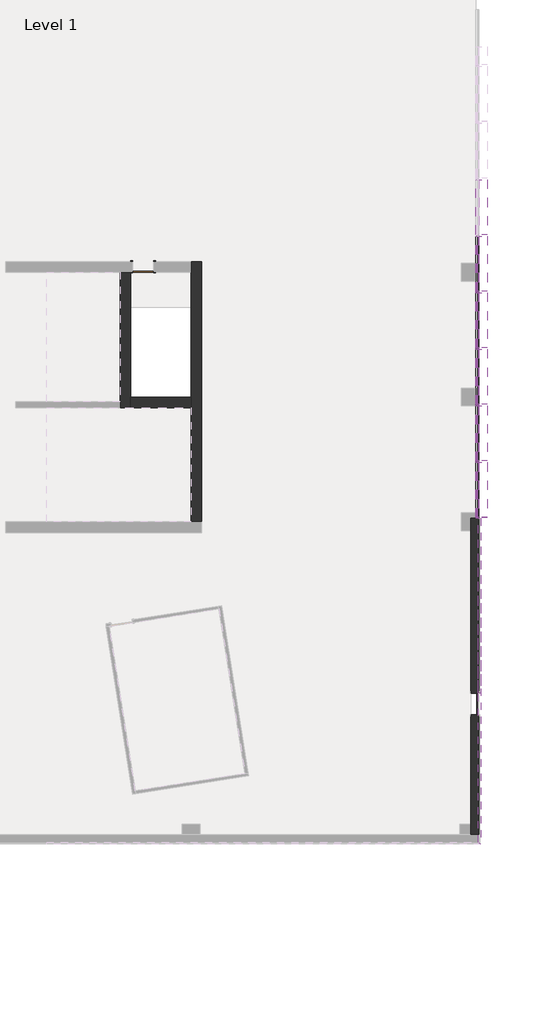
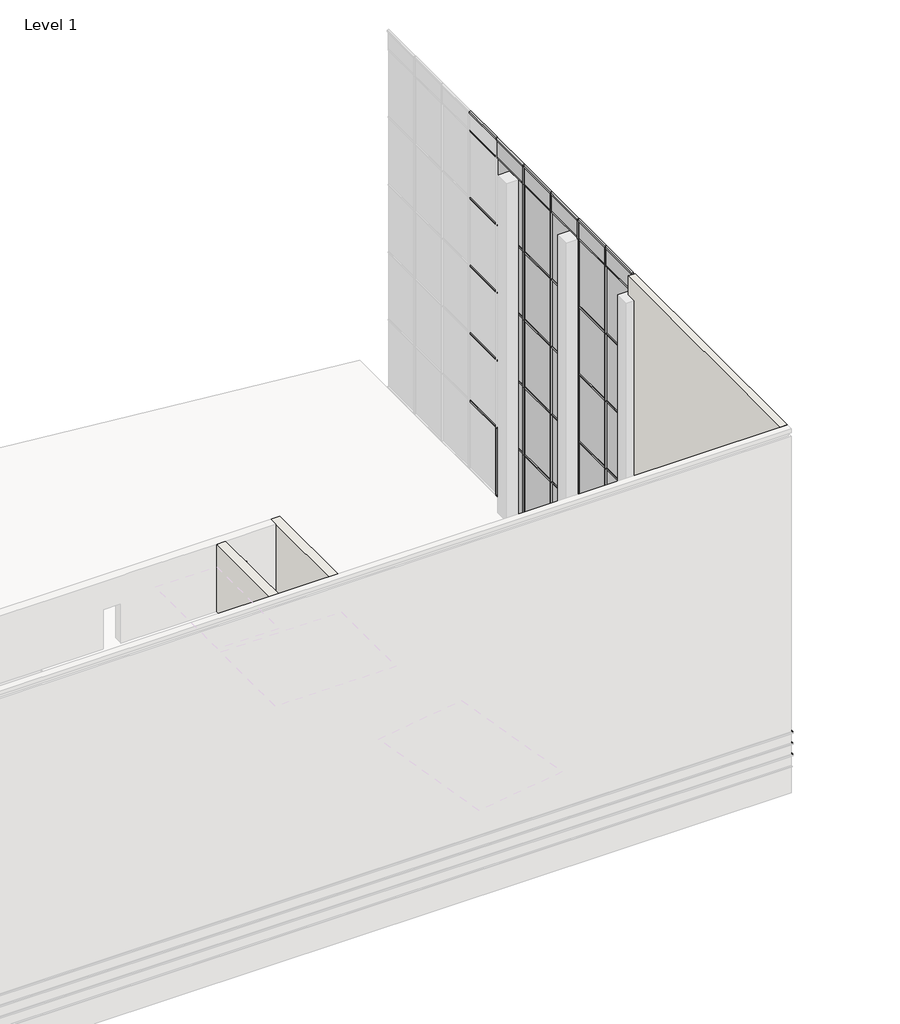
# One storey, part 8 of 23: 72 members, 30 plates, 4 walls, 3 proxies, 1 door.
"""IFC4 building model written with IfcOpenShell, lengths in millimetres."""

from ifc_helpers import new_model, si_unit, frame, origin, origin_with_axes, place, context, project, spatial, polyline, outline, extrude, faceted_brep, transform, mapped, element, save
from components import door_3c99239a, member_148ee976, member_8dc9af40, member_0491a5d0, member_26e31a6d, member_07e69ef0, member_810865a4, member_90793d7c, member_64b167af, system_panel_glazed_b79bd3cf, system_panel_solid_52d708f1

model = new_model("IFC4")

# Units and contexts
model_context = context("Model", 3, world=origin())
ifc_project = project(units=[si_unit("LENGTHUNIT", "METRE", prefix="MILLI")], contexts=[model_context])

# Site, building, storey
site = spatial("IfcSite", under=ifc_project)
building = spatial("IfcBuilding", under=site)
storey = spatial("IfcBuildingStorey", under=building, Name="Level 1", Elevation=0.0)

# Proxies
placement = place(None, origin())
element("IfcBuildingElementProxy", 1, Name="Reveals", at=placement, inside=storey, context=model_context, shape_type="SweptSolid", body=[
    extrude(outline(polyline([(15157.6054088, -14218.5728492), (15249.6804088, -14218.5728492), (15249.6804088, -21686.0488327), (15157.6054088, -21686.0488327), (15157.6054088, -14218.5728492)])), frame((0.0, 0.0, 1625.6), z_axis=(0.0, 0.0, 1.0), x_axis=(1.0, 0.0, 0.0)), (0.0, 0.0, 1.0), 67.7333333),
    extrude(outline(polyline([(15157.6054088, -22600.4488327), (15249.6804088, -22600.4488327), (15249.6804088, -28148.8853492), (15157.6054088, -28056.8103492), (15157.6054088, -22600.4488327)])), frame((0.0, 0.0, 1625.6), z_axis=(0.0, 0.0, 1.0), x_axis=(1.0, 0.0, 0.0)), (0.0, 0.0, 1.0), 67.7333333),
])
element("IfcBuildingElementProxy", 2, Name="Reveals", at=placement, inside=storey, context=model_context, shape_type="SweptSolid", body=[
    extrude(outline(polyline([(15157.6054088, -14218.5728492), (15249.6804088, -14218.5728492), (15249.6804088, -28148.8853492), (15157.6054088, -28056.8103492), (15157.6054088, -14218.5728492)])), frame((0.0, 0.0, 2235.2), z_axis=(0.0, 0.0, 1.0), x_axis=(1.0, 0.0, 0.0)), (0.0, 0.0, 1.0), 67.7333333),
])
element("IfcBuildingElementProxy", 3, Name="Reveals", at=placement, inside=storey, context=model_context, shape_type="SweptSolid", body=[
    extrude(outline(polyline([(15157.6054088, -14218.5728492), (15249.6804088, -14218.5728492), (15249.6804088, -28148.8853492), (15157.6054088, -28056.8103492), (15157.6054088, -14218.5728492)])), frame((0.0, 0.0, 2844.8), z_axis=(0.0, 0.0, 1.0), x_axis=(1.0, 0.0, 0.0)), (0.0, 0.0, 1.0), 67.7333333),
])

# Door
door_shape = door_3c99239a(model_context)
element("IfcDoor", 4, ObjectType="Single-Flush : 36\" x 84\"", at=placement, inside=storey, context=model_context, shape_type="MappedRepresentation", body=[
    mapped(door_shape, transform((817.7000645, -3469.6103492, 0.0), x_axis=(-1.0, 0.0, 0.0), y_axis=(0.0, -1.0, 0.0), z_axis=(0.0, 0.0, 1.0))),
])

# Members
member_shape = member_148ee976(model_context)
element("IfcMember", 5, ObjectType="Quad Corner Mullion : 5\" x 5\" Quad Corner", at=placement, inside=storey, context=model_context, shape_type="MappedRepresentation", body=[
    mapped(member_shape, transform((15106.8054088, -14180.4728492, 19304.0), x_axis=(0.0, 0.0, 1.0), y_axis=(-1.0, 0.0, 0.0), z_axis=(0.0, -1.0, 0.0))),
])
element("IfcMember", 6, ObjectType="Quad Corner Mullion : 5\" x 5\" Quad Corner", at=placement, inside=storey, context=model_context, shape_type="MappedRepresentation", body=[
    mapped(member_shape, transform((15106.8054088, -2094.2120978, 19304.0), x_axis=(0.0, 0.0, 1.0), y_axis=(-1.0, 0.0, 0.0), z_axis=(0.0, -1.0, 0.0))),
])
element("IfcMember", 7, ObjectType="Quad Corner Mullion : 5\" x 5\" Quad Corner", at=placement, inside=storey, context=model_context, shape_type="MappedRepresentation", body=[
    mapped(member_shape, transform((15106.8054088, -4511.4642481, 19304.0), x_axis=(0.0, 0.0, 1.0), y_axis=(-1.0, 0.0, 0.0), z_axis=(0.0, -1.0, 0.0))),
])
element("IfcMember", 8, ObjectType="Quad Corner Mullion : 5\" x 5\" Quad Corner", at=placement, inside=storey, context=model_context, shape_type="MappedRepresentation", body=[
    mapped(member_shape, transform((15106.8054088, -6928.7163984, 19304.0), x_axis=(0.0, 0.0, 1.0), y_axis=(-1.0, 0.0, 0.0), z_axis=(0.0, -1.0, 0.0))),
])
element("IfcMember", 9, ObjectType="Quad Corner Mullion : 5\" x 5\" Quad Corner", at=placement, inside=storey, context=model_context, shape_type="MappedRepresentation", body=[
    mapped(member_shape, transform((15106.8054088, -9345.9685486, 19304.0), x_axis=(0.0, 0.0, 1.0), y_axis=(-1.0, 0.0, 0.0), z_axis=(0.0, -1.0, 0.0))),
])
element("IfcMember", 10, ObjectType="Quad Corner Mullion : 5\" x 5\" Quad Corner", at=placement, inside=storey, context=model_context, shape_type="MappedRepresentation", body=[
    mapped(member_shape, transform((15106.8054088, -11763.2206989, 19304.0), x_axis=(0.0, 0.0, 1.0), y_axis=(-1.0, 0.0, 0.0), z_axis=(0.0, -1.0, 0.0))),
])
element("IfcMember", 11, ObjectType="Quad Corner Mullion : 5\" x 5\" Quad Corner", at=placement, inside=storey, context=model_context, shape_type="MappedRepresentation", body=[
    mapped(member_shape, transform((15106.8054088, -2157.7120978, 0.0), x_axis=(0.0, 0.0, -1.0), y_axis=(-1.0, 0.0, 0.0), z_axis=(0.0, 1.0, 0.0))),
])
element("IfcMember", 12, ObjectType="Quad Corner Mullion : 5\" x 5\" Quad Corner", at=placement, inside=storey, context=model_context, shape_type="MappedRepresentation", body=[
    mapped(member_shape, transform((15106.8054088, -4574.9642481, 0.0), x_axis=(0.0, 0.0, -1.0), y_axis=(-1.0, 0.0, 0.0), z_axis=(0.0, 1.0, 0.0))),
])
element("IfcMember", 13, ObjectType="Quad Corner Mullion : 5\" x 5\" Quad Corner", at=placement, inside=storey, context=model_context, shape_type="MappedRepresentation", body=[
    mapped(member_shape, transform((15106.8054088, -6992.2163984, 0.0), x_axis=(0.0, 0.0, -1.0), y_axis=(-1.0, 0.0, 0.0), z_axis=(0.0, 1.0, 0.0))),
])
element("IfcMember", 14, ObjectType="Quad Corner Mullion : 5\" x 5\" Quad Corner", at=placement, inside=storey, context=model_context, shape_type="MappedRepresentation", body=[
    mapped(member_shape, transform((15106.8054088, -9409.4685486, 0.0), x_axis=(0.0, 0.0, -1.0), y_axis=(-1.0, 0.0, 0.0), z_axis=(0.0, 1.0, 0.0))),
])
element("IfcMember", 15, ObjectType="Quad Corner Mullion : 5\" x 5\" Quad Corner", at=placement, inside=storey, context=model_context, shape_type="MappedRepresentation", body=[
    mapped(member_shape, transform((15106.8054088, -11826.7206989, 0.0), x_axis=(0.0, 0.0, -1.0), y_axis=(-1.0, 0.0, 0.0), z_axis=(0.0, 1.0, 0.0))),
])
member_2_shape = member_8dc9af40(model_context)
element("IfcMember", 16, ObjectType="Rectangular Mullion : 1.5\" x 2.5\" rectangular", at=placement, inside=storey, context=model_context, shape_type="MappedRepresentation", body=[
    mapped(member_2_shape, transform((15106.8054088, -14218.5728492, 3666.6228811), x_axis=(0.0, -1.0, 0.0), y_axis=(-1.0, 0.0, 0.0), z_axis=(0.0, 0.0, -1.0))),
])
element("IfcMember", 17, ObjectType="Rectangular Mullion : 1.5\" x 2.5\" rectangular", at=placement, inside=storey, context=model_context, shape_type="MappedRepresentation", body=[
    mapped(member_2_shape, transform((15106.8054088, -14218.5728492, 7324.2228811), x_axis=(0.0, -1.0, 0.0), y_axis=(-1.0, 0.0, 0.0), z_axis=(0.0, 0.0, -1.0))),
])
element("IfcMember", 18, ObjectType="Rectangular Mullion : 1.5\" x 2.5\" rectangular", at=placement, inside=storey, context=model_context, shape_type="MappedRepresentation", body=[
    mapped(member_2_shape, transform((15106.8054088, -14218.5728492, 10981.8228811), x_axis=(0.0, -1.0, 0.0), y_axis=(-1.0, 0.0, 0.0), z_axis=(0.0, 0.0, -1.0))),
])
element("IfcMember", 19, ObjectType="Rectangular Mullion : 1.5\" x 2.5\" rectangular", at=placement, inside=storey, context=model_context, shape_type="MappedRepresentation", body=[
    mapped(member_2_shape, transform((15106.8054088, -14218.5728492, 14639.4228811), x_axis=(0.0, -1.0, 0.0), y_axis=(-1.0, 0.0, 0.0), z_axis=(0.0, 0.0, -1.0))),
])
member_3_shape = member_0491a5d0(model_context)
element("IfcMember", 20, ObjectType="Rectangular Mullion : 1.5\" x 2.5\" rectangular", at=placement, inside=storey, context=model_context, shape_type="MappedRepresentation", body=[
    mapped(member_3_shape, transform((15106.8054088, -14218.5728492, 0.0), x_axis=(0.0, -1.0, 0.0), y_axis=(-1.0, 0.0, 0.0), z_axis=(0.0, 0.0, -1.0))),
])
member_4_shape = member_26e31a6d(model_context)
element("IfcMember", 21, ObjectType="Rectangular Mullion : 1.5\" x 2.5\" rectangular", at=placement, inside=storey, context=model_context, shape_type="MappedRepresentation", body=[
    mapped(member_4_shape, transform((15106.8054088, -14218.5728492, 18297.0228811), x_axis=(0.0, -1.0, 0.0), y_axis=(-1.0, 0.0, 0.0), z_axis=(0.0, 0.0, -1.0))),
])
member_5_shape = member_07e69ef0(model_context)
element("IfcMember", 22, ObjectType="Rectangular Mullion : 2.5\" x 18\" rectangular", at=placement, inside=storey, context=model_context, shape_type="MappedRepresentation", body=[
    mapped(member_5_shape, transform((15106.8054088, -4511.4642481, 3666.6228811), x_axis=(0.0, 0.0, 1.0), y_axis=(-1.0, 0.0, 0.0), z_axis=(0.0, -1.0, 0.0))),
])
element("IfcMember", 23, ObjectType="Rectangular Mullion : 2.5\" x 18\" rectangular", at=placement, inside=storey, context=model_context, shape_type="MappedRepresentation", body=[
    mapped(member_5_shape, transform((15106.8054088, -2094.2120978, 3666.6228811), x_axis=(0.0, 0.0, 1.0), y_axis=(-1.0, 0.0, 0.0), z_axis=(0.0, -1.0, 0.0))),
])
element("IfcMember", 24, ObjectType="Rectangular Mullion : 2.5\" x 18\" rectangular", at=placement, inside=storey, context=model_context, shape_type="MappedRepresentation", body=[
    mapped(member_5_shape, transform((15106.8054088, -6928.7163984, 3666.6228811), x_axis=(0.0, 0.0, 1.0), y_axis=(-1.0, 0.0, 0.0), z_axis=(0.0, -1.0, 0.0))),
])
element("IfcMember", 25, ObjectType="Rectangular Mullion : 2.5\" x 18\" rectangular", at=placement, inside=storey, context=model_context, shape_type="MappedRepresentation", body=[
    mapped(member_5_shape, transform((15106.8054088, -9345.9685486, 3666.6228811), x_axis=(0.0, 0.0, 1.0), y_axis=(-1.0, 0.0, 0.0), z_axis=(0.0, -1.0, 0.0))),
])
element("IfcMember", 26, ObjectType="Rectangular Mullion : 2.5\" x 18\" rectangular", at=placement, inside=storey, context=model_context, shape_type="MappedRepresentation", body=[
    mapped(member_5_shape, transform((15106.8054088, -11763.2206989, 3666.6228811), x_axis=(0.0, 0.0, 1.0), y_axis=(-1.0, 0.0, 0.0), z_axis=(0.0, -1.0, 0.0))),
])
element("IfcMember", 27, ObjectType="Rectangular Mullion : 2.5\" x 18\" rectangular", at=placement, inside=storey, context=model_context, shape_type="MappedRepresentation", body=[
    mapped(member_5_shape, transform((15106.8054088, -14180.4728492, 3666.6228811), x_axis=(0.0, 0.0, 1.0), y_axis=(-1.0, 0.0, 0.0), z_axis=(0.0, -1.0, 0.0))),
])
element("IfcMember", 28, ObjectType="Rectangular Mullion : 2.5\" x 18\" rectangular", at=placement, inside=storey, context=model_context, shape_type="MappedRepresentation", body=[
    mapped(member_5_shape, transform((15106.8054088, -4511.4642481, 7324.2228811), x_axis=(0.0, 0.0, 1.0), y_axis=(-1.0, 0.0, 0.0), z_axis=(0.0, -1.0, 0.0))),
])
element("IfcMember", 29, ObjectType="Rectangular Mullion : 2.5\" x 18\" rectangular", at=placement, inside=storey, context=model_context, shape_type="MappedRepresentation", body=[
    mapped(member_5_shape, transform((15106.8054088, -2094.2120978, 7324.2228811), x_axis=(0.0, 0.0, 1.0), y_axis=(-1.0, 0.0, 0.0), z_axis=(0.0, -1.0, 0.0))),
])
element("IfcMember", 30, ObjectType="Rectangular Mullion : 2.5\" x 18\" rectangular", at=placement, inside=storey, context=model_context, shape_type="MappedRepresentation", body=[
    mapped(member_5_shape, transform((15106.8054088, -6928.7163984, 7324.2228811), x_axis=(0.0, 0.0, 1.0), y_axis=(-1.0, 0.0, 0.0), z_axis=(0.0, -1.0, 0.0))),
])
element("IfcMember", 31, ObjectType="Rectangular Mullion : 2.5\" x 18\" rectangular", at=placement, inside=storey, context=model_context, shape_type="MappedRepresentation", body=[
    mapped(member_5_shape, transform((15106.8054088, -9345.9685486, 7324.2228811), x_axis=(0.0, 0.0, 1.0), y_axis=(-1.0, 0.0, 0.0), z_axis=(0.0, -1.0, 0.0))),
])
element("IfcMember", 32, ObjectType="Rectangular Mullion : 2.5\" x 18\" rectangular", at=placement, inside=storey, context=model_context, shape_type="MappedRepresentation", body=[
    mapped(member_5_shape, transform((15106.8054088, -11763.2206989, 7324.2228811), x_axis=(0.0, 0.0, 1.0), y_axis=(-1.0, 0.0, 0.0), z_axis=(0.0, -1.0, 0.0))),
])
element("IfcMember", 33, ObjectType="Rectangular Mullion : 2.5\" x 18\" rectangular", at=placement, inside=storey, context=model_context, shape_type="MappedRepresentation", body=[
    mapped(member_5_shape, transform((15106.8054088, -14180.4728492, 7324.2228811), x_axis=(0.0, 0.0, 1.0), y_axis=(-1.0, 0.0, 0.0), z_axis=(0.0, -1.0, 0.0))),
])
element("IfcMember", 34, ObjectType="Rectangular Mullion : 2.5\" x 18\" rectangular", at=placement, inside=storey, context=model_context, shape_type="MappedRepresentation", body=[
    mapped(member_5_shape, transform((15106.8054088, -4511.4642481, 10981.8228811), x_axis=(0.0, 0.0, 1.0), y_axis=(-1.0, 0.0, 0.0), z_axis=(0.0, -1.0, 0.0))),
])
element("IfcMember", 35, ObjectType="Rectangular Mullion : 2.5\" x 18\" rectangular", at=placement, inside=storey, context=model_context, shape_type="MappedRepresentation", body=[
    mapped(member_5_shape, transform((15106.8054088, -2094.2120978, 10981.8228811), x_axis=(0.0, 0.0, 1.0), y_axis=(-1.0, 0.0, 0.0), z_axis=(0.0, -1.0, 0.0))),
])
element("IfcMember", 36, ObjectType="Rectangular Mullion : 2.5\" x 18\" rectangular", at=placement, inside=storey, context=model_context, shape_type="MappedRepresentation", body=[
    mapped(member_5_shape, transform((15106.8054088, -6928.7163984, 10981.8228811), x_axis=(0.0, 0.0, 1.0), y_axis=(-1.0, 0.0, 0.0), z_axis=(0.0, -1.0, 0.0))),
])
element("IfcMember", 37, ObjectType="Rectangular Mullion : 2.5\" x 18\" rectangular", at=placement, inside=storey, context=model_context, shape_type="MappedRepresentation", body=[
    mapped(member_5_shape, transform((15106.8054088, -9345.9685486, 10981.8228811), x_axis=(0.0, 0.0, 1.0), y_axis=(-1.0, 0.0, 0.0), z_axis=(0.0, -1.0, 0.0))),
])
element("IfcMember", 38, ObjectType="Rectangular Mullion : 2.5\" x 18\" rectangular", at=placement, inside=storey, context=model_context, shape_type="MappedRepresentation", body=[
    mapped(member_5_shape, transform((15106.8054088, -11763.2206989, 10981.8228811), x_axis=(0.0, 0.0, 1.0), y_axis=(-1.0, 0.0, 0.0), z_axis=(0.0, -1.0, 0.0))),
])
element("IfcMember", 39, ObjectType="Rectangular Mullion : 2.5\" x 18\" rectangular", at=placement, inside=storey, context=model_context, shape_type="MappedRepresentation", body=[
    mapped(member_5_shape, transform((15106.8054088, -14180.4728492, 10981.8228811), x_axis=(0.0, 0.0, 1.0), y_axis=(-1.0, 0.0, 0.0), z_axis=(0.0, -1.0, 0.0))),
])
element("IfcMember", 40, ObjectType="Rectangular Mullion : 2.5\" x 18\" rectangular", at=placement, inside=storey, context=model_context, shape_type="MappedRepresentation", body=[
    mapped(member_5_shape, transform((15106.8054088, -4511.4642481, 14639.4228811), x_axis=(0.0, 0.0, 1.0), y_axis=(-1.0, 0.0, 0.0), z_axis=(0.0, -1.0, 0.0))),
])
element("IfcMember", 41, ObjectType="Rectangular Mullion : 2.5\" x 18\" rectangular", at=placement, inside=storey, context=model_context, shape_type="MappedRepresentation", body=[
    mapped(member_5_shape, transform((15106.8054088, -2094.2120978, 14639.4228811), x_axis=(0.0, 0.0, 1.0), y_axis=(-1.0, 0.0, 0.0), z_axis=(0.0, -1.0, 0.0))),
])
element("IfcMember", 42, ObjectType="Rectangular Mullion : 2.5\" x 18\" rectangular", at=placement, inside=storey, context=model_context, shape_type="MappedRepresentation", body=[
    mapped(member_5_shape, transform((15106.8054088, -6928.7163984, 14639.4228811), x_axis=(0.0, 0.0, 1.0), y_axis=(-1.0, 0.0, 0.0), z_axis=(0.0, -1.0, 0.0))),
])
element("IfcMember", 43, ObjectType="Rectangular Mullion : 2.5\" x 18\" rectangular", at=placement, inside=storey, context=model_context, shape_type="MappedRepresentation", body=[
    mapped(member_5_shape, transform((15106.8054088, -9345.9685486, 14639.4228811), x_axis=(0.0, 0.0, 1.0), y_axis=(-1.0, 0.0, 0.0), z_axis=(0.0, -1.0, 0.0))),
])
element("IfcMember", 44, ObjectType="Rectangular Mullion : 2.5\" x 18\" rectangular", at=placement, inside=storey, context=model_context, shape_type="MappedRepresentation", body=[
    mapped(member_5_shape, transform((15106.8054088, -11763.2206989, 14639.4228811), x_axis=(0.0, 0.0, 1.0), y_axis=(-1.0, 0.0, 0.0), z_axis=(0.0, -1.0, 0.0))),
])
element("IfcMember", 45, ObjectType="Rectangular Mullion : 2.5\" x 18\" rectangular", at=placement, inside=storey, context=model_context, shape_type="MappedRepresentation", body=[
    mapped(member_5_shape, transform((15106.8054088, -14180.4728492, 14639.4228811), x_axis=(0.0, 0.0, 1.0), y_axis=(-1.0, 0.0, 0.0), z_axis=(0.0, -1.0, 0.0))),
])
element("IfcMember", 46, ObjectType="Rectangular Mullion : 2.5\" x 18\" rectangular", at=placement, inside=storey, context=model_context, shape_type="MappedRepresentation", body=[
    mapped(member_5_shape, transform((15106.8054088, -4511.4642481, 18297.0228811), x_axis=(0.0, 0.0, 1.0), y_axis=(-1.0, 0.0, 0.0), z_axis=(0.0, -1.0, 0.0))),
])
element("IfcMember", 47, ObjectType="Rectangular Mullion : 2.5\" x 18\" rectangular", at=placement, inside=storey, context=model_context, shape_type="MappedRepresentation", body=[
    mapped(member_5_shape, transform((15106.8054088, -2094.2120978, 18297.0228811), x_axis=(0.0, 0.0, 1.0), y_axis=(-1.0, 0.0, 0.0), z_axis=(0.0, -1.0, 0.0))),
])
element("IfcMember", 48, ObjectType="Rectangular Mullion : 2.5\" x 18\" rectangular", at=placement, inside=storey, context=model_context, shape_type="MappedRepresentation", body=[
    mapped(member_5_shape, transform((15106.8054088, -6928.7163984, 18297.0228811), x_axis=(0.0, 0.0, 1.0), y_axis=(-1.0, 0.0, 0.0), z_axis=(0.0, -1.0, 0.0))),
])
element("IfcMember", 49, ObjectType="Rectangular Mullion : 2.5\" x 18\" rectangular", at=placement, inside=storey, context=model_context, shape_type="MappedRepresentation", body=[
    mapped(member_5_shape, transform((15106.8054088, -9345.9685486, 18297.0228811), x_axis=(0.0, 0.0, 1.0), y_axis=(-1.0, 0.0, 0.0), z_axis=(0.0, -1.0, 0.0))),
])
element("IfcMember", 50, ObjectType="Rectangular Mullion : 2.5\" x 18\" rectangular", at=placement, inside=storey, context=model_context, shape_type="MappedRepresentation", body=[
    mapped(member_5_shape, transform((15106.8054088, -11763.2206989, 18297.0228811), x_axis=(0.0, 0.0, 1.0), y_axis=(-1.0, 0.0, 0.0), z_axis=(0.0, -1.0, 0.0))),
])
element("IfcMember", 51, ObjectType="Rectangular Mullion : 2.5\" x 18\" rectangular", at=placement, inside=storey, context=model_context, shape_type="MappedRepresentation", body=[
    mapped(member_5_shape, transform((15106.8054088, -14180.4728492, 18297.0228811), x_axis=(0.0, 0.0, 1.0), y_axis=(-1.0, 0.0, 0.0), z_axis=(0.0, -1.0, 0.0))),
])
member_6_shape = member_810865a4(model_context)
element("IfcMember", 52, ObjectType="Rectangular Mullion : 2.5\" x 5\" rectangular", at=placement, inside=storey, context=model_context, shape_type="MappedRepresentation", body=[
    mapped(member_6_shape, transform((15106.8054088, -9377.7185486, 3666.6228811), x_axis=(0.0, -1.0, 0.0), y_axis=(-1.0, 0.0, 0.0), z_axis=(0.0, 0.0, -1.0))),
])
element("IfcMember", 53, ObjectType="Rectangular Mullion : 2.5\" x 5\" rectangular", at=placement, inside=storey, context=model_context, shape_type="MappedRepresentation", body=[
    mapped(member_6_shape, transform((15106.8054088, -4543.2142481, 3666.6228811), x_axis=(0.0, -1.0, 0.0), y_axis=(-1.0, 0.0, 0.0), z_axis=(0.0, 0.0, -1.0))),
])
element("IfcMember", 54, ObjectType="Rectangular Mullion : 2.5\" x 5\" rectangular", at=placement, inside=storey, context=model_context, shape_type="MappedRepresentation", body=[
    mapped(member_6_shape, transform((15106.8054088, -6960.4663984, 3666.6228811), x_axis=(0.0, -1.0, 0.0), y_axis=(-1.0, 0.0, 0.0), z_axis=(0.0, 0.0, -1.0))),
])
element("IfcMember", 55, ObjectType="Rectangular Mullion : 2.5\" x 5\" rectangular", at=placement, inside=storey, context=model_context, shape_type="MappedRepresentation", body=[
    mapped(member_6_shape, transform((15106.8054088, -11794.9706989, 3666.6228811), x_axis=(0.0, -1.0, 0.0), y_axis=(-1.0, 0.0, 0.0), z_axis=(0.0, 0.0, -1.0))),
])
element("IfcMember", 56, ObjectType="Rectangular Mullion : 2.5\" x 5\" rectangular", at=placement, inside=storey, context=model_context, shape_type="MappedRepresentation", body=[
    mapped(member_6_shape, transform((15106.8054088, -9377.7185486, 7324.2228811), x_axis=(0.0, -1.0, 0.0), y_axis=(-1.0, 0.0, 0.0), z_axis=(0.0, 0.0, -1.0))),
])
element("IfcMember", 57, ObjectType="Rectangular Mullion : 2.5\" x 5\" rectangular", at=placement, inside=storey, context=model_context, shape_type="MappedRepresentation", body=[
    mapped(member_6_shape, transform((15106.8054088, -4543.2142481, 7324.2228811), x_axis=(0.0, -1.0, 0.0), y_axis=(-1.0, 0.0, 0.0), z_axis=(0.0, 0.0, -1.0))),
])
element("IfcMember", 58, ObjectType="Rectangular Mullion : 2.5\" x 5\" rectangular", at=placement, inside=storey, context=model_context, shape_type="MappedRepresentation", body=[
    mapped(member_6_shape, transform((15106.8054088, -6960.4663984, 7324.2228811), x_axis=(0.0, -1.0, 0.0), y_axis=(-1.0, 0.0, 0.0), z_axis=(0.0, 0.0, -1.0))),
])
element("IfcMember", 59, ObjectType="Rectangular Mullion : 2.5\" x 5\" rectangular", at=placement, inside=storey, context=model_context, shape_type="MappedRepresentation", body=[
    mapped(member_6_shape, transform((15106.8054088, -11794.9706989, 7324.2228811), x_axis=(0.0, -1.0, 0.0), y_axis=(-1.0, 0.0, 0.0), z_axis=(0.0, 0.0, -1.0))),
])
element("IfcMember", 60, ObjectType="Rectangular Mullion : 2.5\" x 5\" rectangular", at=placement, inside=storey, context=model_context, shape_type="MappedRepresentation", body=[
    mapped(member_6_shape, transform((15106.8054088, -9377.7185486, 10981.8228811), x_axis=(0.0, -1.0, 0.0), y_axis=(-1.0, 0.0, 0.0), z_axis=(0.0, 0.0, -1.0))),
])
element("IfcMember", 61, ObjectType="Rectangular Mullion : 2.5\" x 5\" rectangular", at=placement, inside=storey, context=model_context, shape_type="MappedRepresentation", body=[
    mapped(member_6_shape, transform((15106.8054088, -4543.2142481, 10981.8228811), x_axis=(0.0, -1.0, 0.0), y_axis=(-1.0, 0.0, 0.0), z_axis=(0.0, 0.0, -1.0))),
])
element("IfcMember", 62, ObjectType="Rectangular Mullion : 2.5\" x 5\" rectangular", at=placement, inside=storey, context=model_context, shape_type="MappedRepresentation", body=[
    mapped(member_6_shape, transform((15106.8054088, -6960.4663984, 10981.8228811), x_axis=(0.0, -1.0, 0.0), y_axis=(-1.0, 0.0, 0.0), z_axis=(0.0, 0.0, -1.0))),
])
element("IfcMember", 63, ObjectType="Rectangular Mullion : 2.5\" x 5\" rectangular", at=placement, inside=storey, context=model_context, shape_type="MappedRepresentation", body=[
    mapped(member_6_shape, transform((15106.8054088, -11794.9706989, 10981.8228811), x_axis=(0.0, -1.0, 0.0), y_axis=(-1.0, 0.0, 0.0), z_axis=(0.0, 0.0, -1.0))),
])
element("IfcMember", 64, ObjectType="Rectangular Mullion : 2.5\" x 5\" rectangular", at=placement, inside=storey, context=model_context, shape_type="MappedRepresentation", body=[
    mapped(member_6_shape, transform((15106.8054088, -9377.7185486, 14639.4228811), x_axis=(0.0, -1.0, 0.0), y_axis=(-1.0, 0.0, 0.0), z_axis=(0.0, 0.0, -1.0))),
])
element("IfcMember", 65, ObjectType="Rectangular Mullion : 2.5\" x 5\" rectangular", at=placement, inside=storey, context=model_context, shape_type="MappedRepresentation", body=[
    mapped(member_6_shape, transform((15106.8054088, -4543.2142481, 14639.4228811), x_axis=(0.0, -1.0, 0.0), y_axis=(-1.0, 0.0, 0.0), z_axis=(0.0, 0.0, -1.0))),
])
element("IfcMember", 66, ObjectType="Rectangular Mullion : 2.5\" x 5\" rectangular", at=placement, inside=storey, context=model_context, shape_type="MappedRepresentation", body=[
    mapped(member_6_shape, transform((15106.8054088, -6960.4663984, 14639.4228811), x_axis=(0.0, -1.0, 0.0), y_axis=(-1.0, 0.0, 0.0), z_axis=(0.0, 0.0, -1.0))),
])
element("IfcMember", 67, ObjectType="Rectangular Mullion : 2.5\" x 5\" rectangular", at=placement, inside=storey, context=model_context, shape_type="MappedRepresentation", body=[
    mapped(member_6_shape, transform((15106.8054088, -11794.9706989, 14639.4228811), x_axis=(0.0, -1.0, 0.0), y_axis=(-1.0, 0.0, 0.0), z_axis=(0.0, 0.0, -1.0))),
])
member_7_shape = member_90793d7c(model_context)
element("IfcMember", 68, ObjectType="Rectangular Mullion : 2.5\" x 5\" rectangular", at=placement, inside=storey, context=model_context, shape_type="MappedRepresentation", body=[
    mapped(member_7_shape, transform((15106.8054088, -9377.7185486, 0.0), x_axis=(0.0, -1.0, 0.0), y_axis=(-1.0, 0.0, 0.0), z_axis=(0.0, 0.0, -1.0))),
])
element("IfcMember", 69, ObjectType="Rectangular Mullion : 2.5\" x 5\" rectangular", at=placement, inside=storey, context=model_context, shape_type="MappedRepresentation", body=[
    mapped(member_7_shape, transform((15106.8054088, -4543.2142481, 0.0), x_axis=(0.0, -1.0, 0.0), y_axis=(-1.0, 0.0, 0.0), z_axis=(0.0, 0.0, -1.0))),
])
element("IfcMember", 70, ObjectType="Rectangular Mullion : 2.5\" x 5\" rectangular", at=placement, inside=storey, context=model_context, shape_type="MappedRepresentation", body=[
    mapped(member_7_shape, transform((15106.8054088, -2125.9620978, 0.0), x_axis=(0.0, -1.0, 0.0), y_axis=(-1.0, 0.0, 0.0), z_axis=(0.0, 0.0, -1.0))),
])
element("IfcMember", 71, ObjectType="Rectangular Mullion : 2.5\" x 5\" rectangular", at=placement, inside=storey, context=model_context, shape_type="MappedRepresentation", body=[
    mapped(member_7_shape, transform((15106.8054088, -6960.4663984, 0.0), x_axis=(0.0, -1.0, 0.0), y_axis=(-1.0, 0.0, 0.0), z_axis=(0.0, 0.0, -1.0))),
])
element("IfcMember", 72, ObjectType="Rectangular Mullion : 2.5\" x 5\" rectangular", at=placement, inside=storey, context=model_context, shape_type="MappedRepresentation", body=[
    mapped(member_7_shape, transform((15106.8054088, -11794.9706989, 0.0), x_axis=(0.0, -1.0, 0.0), y_axis=(-1.0, 0.0, 0.0), z_axis=(0.0, 0.0, -1.0))),
])
member_8_shape = member_64b167af(model_context)
element("IfcMember", 73, ObjectType="Rectangular Mullion : 2.5\" x 5\" rectangular", at=placement, inside=storey, context=model_context, shape_type="MappedRepresentation", body=[
    mapped(member_8_shape, transform((15106.8054088, -9377.7185486, 18297.0228811), x_axis=(0.0, -1.0, 0.0), y_axis=(-1.0, 0.0, 0.0), z_axis=(0.0, 0.0, -1.0))),
])
element("IfcMember", 74, ObjectType="Rectangular Mullion : 2.5\" x 5\" rectangular", at=placement, inside=storey, context=model_context, shape_type="MappedRepresentation", body=[
    mapped(member_8_shape, transform((15106.8054088, -4543.2142481, 18297.0228811), x_axis=(0.0, -1.0, 0.0), y_axis=(-1.0, 0.0, 0.0), z_axis=(0.0, 0.0, -1.0))),
])
element("IfcMember", 75, ObjectType="Rectangular Mullion : 2.5\" x 5\" rectangular", at=placement, inside=storey, context=model_context, shape_type="MappedRepresentation", body=[
    mapped(member_8_shape, transform((15106.8054088, -6960.4663984, 18297.0228811), x_axis=(0.0, -1.0, 0.0), y_axis=(-1.0, 0.0, 0.0), z_axis=(0.0, 0.0, -1.0))),
])
element("IfcMember", 76, ObjectType="Rectangular Mullion : 2.5\" x 5\" rectangular", at=placement, inside=storey, context=model_context, shape_type="MappedRepresentation", body=[
    mapped(member_8_shape, transform((15106.8054088, -11794.9706989, 18297.0228811), x_axis=(0.0, -1.0, 0.0), y_axis=(-1.0, 0.0, 0.0), z_axis=(0.0, 0.0, -1.0))),
])

# Plates
system_panel_glazed_shape = system_panel_glazed_b79bd3cf(model_context)
element("IfcPlate", 77, ObjectType="System Panel : Glazed", at=placement, inside=storey, context=model_context, shape_type="MappedRepresentation", body=[
    mapped(system_panel_glazed_shape, transform((15106.8054088, -3334.5881729, 40.7728811), x_axis=(0.0, -1.0, 0.0), y_axis=(1.0, 0.0, 0.0), z_axis=(0.0, 0.0, 1.0))),
])
element("IfcPlate", 78, ObjectType="System Panel : Glazed", at=placement, inside=storey, context=model_context, shape_type="MappedRepresentation", body=[
    mapped(system_panel_glazed_shape, transform((15106.8054088, -3334.5881729, 3698.3728811), x_axis=(0.0, -1.0, 0.0), y_axis=(1.0, 0.0, 0.0), z_axis=(0.0, 0.0, 1.0))),
])
element("IfcPlate", 79, ObjectType="System Panel : Glazed", at=placement, inside=storey, context=model_context, shape_type="MappedRepresentation", body=[
    mapped(system_panel_glazed_shape, transform((15106.8054088, -3334.5881729, 7355.9728811), x_axis=(0.0, -1.0, 0.0), y_axis=(1.0, 0.0, 0.0), z_axis=(0.0, 0.0, 1.0))),
])
element("IfcPlate", 80, ObjectType="System Panel : Glazed", at=placement, inside=storey, context=model_context, shape_type="MappedRepresentation", body=[
    mapped(system_panel_glazed_shape, transform((15106.8054088, -3334.5881729, 11013.5728811), x_axis=(0.0, -1.0, 0.0), y_axis=(1.0, 0.0, 0.0), z_axis=(0.0, 0.0, 1.0))),
])
element("IfcPlate", 81, ObjectType="System Panel : Glazed", at=placement, inside=storey, context=model_context, shape_type="MappedRepresentation", body=[
    mapped(system_panel_glazed_shape, transform((15106.8054088, -3334.5881729, 14671.1728811), x_axis=(0.0, -1.0, 0.0), y_axis=(1.0, 0.0, 0.0), z_axis=(0.0, 0.0, 1.0))),
])
element("IfcPlate", 82, ObjectType="System Panel : Glazed", at=placement, inside=storey, context=model_context, shape_type="MappedRepresentation", body=[
    mapped(system_panel_glazed_shape, transform((15106.8054088, -5751.8403232, 40.7728811), x_axis=(0.0, -1.0, 0.0), y_axis=(1.0, 0.0, 0.0), z_axis=(0.0, 0.0, 1.0))),
])
element("IfcPlate", 83, ObjectType="System Panel : Glazed", at=placement, inside=storey, context=model_context, shape_type="MappedRepresentation", body=[
    mapped(system_panel_glazed_shape, transform((15106.8054088, -5751.8403232, 3698.3728811), x_axis=(0.0, -1.0, 0.0), y_axis=(1.0, 0.0, 0.0), z_axis=(0.0, 0.0, 1.0))),
])
element("IfcPlate", 84, ObjectType="System Panel : Glazed", at=placement, inside=storey, context=model_context, shape_type="MappedRepresentation", body=[
    mapped(system_panel_glazed_shape, transform((15106.8054088, -5751.8403232, 7355.9728811), x_axis=(0.0, -1.0, 0.0), y_axis=(1.0, 0.0, 0.0), z_axis=(0.0, 0.0, 1.0))),
])
element("IfcPlate", 85, ObjectType="System Panel : Glazed", at=placement, inside=storey, context=model_context, shape_type="MappedRepresentation", body=[
    mapped(system_panel_glazed_shape, transform((15106.8054088, -5751.8403232, 11013.5728811), x_axis=(0.0, -1.0, 0.0), y_axis=(1.0, 0.0, 0.0), z_axis=(0.0, 0.0, 1.0))),
])
element("IfcPlate", 86, ObjectType="System Panel : Glazed", at=placement, inside=storey, context=model_context, shape_type="MappedRepresentation", body=[
    mapped(system_panel_glazed_shape, transform((15106.8054088, -5751.8403232, 14671.1728811), x_axis=(0.0, -1.0, 0.0), y_axis=(1.0, 0.0, 0.0), z_axis=(0.0, 0.0, 1.0))),
])
element("IfcPlate", 87, ObjectType="System Panel : Glazed", at=placement, inside=storey, context=model_context, shape_type="MappedRepresentation", body=[
    mapped(system_panel_glazed_shape, transform((15106.8054088, -8169.0924735, 40.7728811), x_axis=(0.0, -1.0, 0.0), y_axis=(1.0, 0.0, 0.0), z_axis=(0.0, 0.0, 1.0))),
])
element("IfcPlate", 88, ObjectType="System Panel : Glazed", at=placement, inside=storey, context=model_context, shape_type="MappedRepresentation", body=[
    mapped(system_panel_glazed_shape, transform((15106.8054088, -8169.0924735, 3698.3728811), x_axis=(0.0, -1.0, 0.0), y_axis=(1.0, 0.0, 0.0), z_axis=(0.0, 0.0, 1.0))),
])
element("IfcPlate", 89, ObjectType="System Panel : Glazed", at=placement, inside=storey, context=model_context, shape_type="MappedRepresentation", body=[
    mapped(system_panel_glazed_shape, transform((15106.8054088, -8169.0924735, 7355.9728811), x_axis=(0.0, -1.0, 0.0), y_axis=(1.0, 0.0, 0.0), z_axis=(0.0, 0.0, 1.0))),
])
element("IfcPlate", 90, ObjectType="System Panel : Glazed", at=placement, inside=storey, context=model_context, shape_type="MappedRepresentation", body=[
    mapped(system_panel_glazed_shape, transform((15106.8054088, -8169.0924735, 11013.5728811), x_axis=(0.0, -1.0, 0.0), y_axis=(1.0, 0.0, 0.0), z_axis=(0.0, 0.0, 1.0))),
])
element("IfcPlate", 91, ObjectType="System Panel : Glazed", at=placement, inside=storey, context=model_context, shape_type="MappedRepresentation", body=[
    mapped(system_panel_glazed_shape, transform((15106.8054088, -8169.0924735, 14671.1728811), x_axis=(0.0, -1.0, 0.0), y_axis=(1.0, 0.0, 0.0), z_axis=(0.0, 0.0, 1.0))),
])
element("IfcPlate", 92, ObjectType="System Panel : Glazed", at=placement, inside=storey, context=model_context, shape_type="MappedRepresentation", body=[
    mapped(system_panel_glazed_shape, transform((15106.8054088, -10586.3446238, 40.7728811), x_axis=(0.0, -1.0, 0.0), y_axis=(1.0, 0.0, 0.0), z_axis=(0.0, 0.0, 1.0))),
])
element("IfcPlate", 93, ObjectType="System Panel : Glazed", at=placement, inside=storey, context=model_context, shape_type="MappedRepresentation", body=[
    mapped(system_panel_glazed_shape, transform((15106.8054088, -10586.3446238, 3698.3728811), x_axis=(0.0, -1.0, 0.0), y_axis=(1.0, 0.0, 0.0), z_axis=(0.0, 0.0, 1.0))),
])
element("IfcPlate", 94, ObjectType="System Panel : Glazed", at=placement, inside=storey, context=model_context, shape_type="MappedRepresentation", body=[
    mapped(system_panel_glazed_shape, transform((15106.8054088, -10586.3446238, 7355.9728811), x_axis=(0.0, -1.0, 0.0), y_axis=(1.0, 0.0, 0.0), z_axis=(0.0, 0.0, 1.0))),
])
element("IfcPlate", 95, ObjectType="System Panel : Glazed", at=placement, inside=storey, context=model_context, shape_type="MappedRepresentation", body=[
    mapped(system_panel_glazed_shape, transform((15106.8054088, -10586.3446238, 11013.5728811), x_axis=(0.0, -1.0, 0.0), y_axis=(1.0, 0.0, 0.0), z_axis=(0.0, 0.0, 1.0))),
])
element("IfcPlate", 96, ObjectType="System Panel : Glazed", at=placement, inside=storey, context=model_context, shape_type="MappedRepresentation", body=[
    mapped(system_panel_glazed_shape, transform((15106.8054088, -10586.3446238, 14671.1728811), x_axis=(0.0, -1.0, 0.0), y_axis=(1.0, 0.0, 0.0), z_axis=(0.0, 0.0, 1.0))),
])
element("IfcPlate", 97, ObjectType="System Panel : Glazed", at=placement, inside=storey, context=model_context, shape_type="MappedRepresentation", body=[
    mapped(system_panel_glazed_shape, transform((15106.8054088, -13003.5967741, 40.7728811), x_axis=(0.0, -1.0, 0.0), y_axis=(1.0, 0.0, 0.0), z_axis=(0.0, 0.0, 1.0))),
])
element("IfcPlate", 98, ObjectType="System Panel : Glazed", at=placement, inside=storey, context=model_context, shape_type="MappedRepresentation", body=[
    mapped(system_panel_glazed_shape, transform((15106.8054088, -13003.5967741, 3698.3728811), x_axis=(0.0, -1.0, 0.0), y_axis=(1.0, 0.0, 0.0), z_axis=(0.0, 0.0, 1.0))),
])
element("IfcPlate", 99, ObjectType="System Panel : Glazed", at=placement, inside=storey, context=model_context, shape_type="MappedRepresentation", body=[
    mapped(system_panel_glazed_shape, transform((15106.8054088, -13003.5967741, 7355.9728811), x_axis=(0.0, -1.0, 0.0), y_axis=(1.0, 0.0, 0.0), z_axis=(0.0, 0.0, 1.0))),
])
element("IfcPlate", 100, ObjectType="System Panel : Glazed", at=placement, inside=storey, context=model_context, shape_type="MappedRepresentation", body=[
    mapped(system_panel_glazed_shape, transform((15106.8054088, -13003.5967741, 11013.5728811), x_axis=(0.0, -1.0, 0.0), y_axis=(1.0, 0.0, 0.0), z_axis=(0.0, 0.0, 1.0))),
])
element("IfcPlate", 101, ObjectType="System Panel : Glazed", at=placement, inside=storey, context=model_context, shape_type="MappedRepresentation", body=[
    mapped(system_panel_glazed_shape, transform((15106.8054088, -13003.5967741, 14671.1728811), x_axis=(0.0, -1.0, 0.0), y_axis=(1.0, 0.0, 0.0), z_axis=(0.0, 0.0, 1.0))),
])
system_panel_solid_shape = system_panel_solid_52d708f1(model_context)
element("IfcPlate", 102, ObjectType="System Panel : Solid", at=placement, inside=storey, context=model_context, shape_type="MappedRepresentation", body=[
    mapped(system_panel_solid_shape, transform((15106.8054088, -3334.5881729, 18328.7728811), x_axis=(0.0, -1.0, 0.0), y_axis=(1.0, 0.0, 0.0), z_axis=(0.0, 0.0, 1.0))),
])
element("IfcPlate", 103, ObjectType="System Panel : Solid", at=placement, inside=storey, context=model_context, shape_type="MappedRepresentation", body=[
    mapped(system_panel_solid_shape, transform((15106.8054088, -5751.8403232, 18328.7728811), x_axis=(0.0, -1.0, 0.0), y_axis=(1.0, 0.0, 0.0), z_axis=(0.0, 0.0, 1.0))),
])
element("IfcPlate", 104, ObjectType="System Panel : Solid", at=placement, inside=storey, context=model_context, shape_type="MappedRepresentation", body=[
    mapped(system_panel_solid_shape, transform((15106.8054088, -8169.0924735, 18328.7728811), x_axis=(0.0, -1.0, 0.0), y_axis=(1.0, 0.0, 0.0), z_axis=(0.0, 0.0, 1.0))),
])
element("IfcPlate", 105, ObjectType="System Panel : Solid", at=placement, inside=storey, context=model_context, shape_type="MappedRepresentation", body=[
    mapped(system_panel_solid_shape, transform((15106.8054088, -10586.3446238, 18328.7728811), x_axis=(0.0, -1.0, 0.0), y_axis=(1.0, 0.0, 0.0), z_axis=(0.0, 0.0, 1.0))),
])
element("IfcPlate", 106, ObjectType="System Panel : Solid", at=placement, inside=storey, context=model_context, shape_type="MappedRepresentation", body=[
    mapped(system_panel_solid_shape, transform((15106.8054088, -13003.5967741, 18328.7728811), x_axis=(0.0, -1.0, 0.0), y_axis=(1.0, 0.0, 0.0), z_axis=(0.0, 0.0, 1.0))),
])

# Walls
element("IfcWall", 107, ObjectType="Core-shaft 18\" Concrete", at=placement, inside=storey, context=model_context, shape_type="Brep", body=[
    faceted_brep([(2867.8429217, -3241.0103492, 0.0), (2867.8429217, -3698.2103492, 0.0), (2867.8429217, -9032.2103492, 0.0), (2867.8429217, -9489.4103492, 0.0), (2867.8429217, -14366.2103492, 0.0), (2867.8429217, -14366.2103492, 3657.6), (2867.8429217, -9489.4103492, 3657.6), (2867.8429217, -9032.2103492, 3657.6), (2867.8429217, -3698.2103492, 3657.6), (2867.8429217, -3241.0103492, 3657.6), (3325.0429217, -3241.0103492, 0.0), (3325.0429217, -3241.0103492, 3657.6), (3325.0429217, -14366.2103492, 3657.6), (3325.0429217, -14366.2103492, 0.0)], [[[0, 1, 2, 3, 4, 5, 6, 7, 8, 9]], [[10, 11, 12, 13]], [[4, 3, 2, 1, 0, 10, 13]], [[9, 8, 7, 6, 5, 12, 11]], [[0, 9, 11, 10]], [[5, 4, 13, 12]]]),
])
element("IfcWall", 108, ObjectType="Core-shaft 18\" Concrete", at=placement, inside=storey, context=model_context, shape_type="Brep", body=[
    faceted_brep([(-172.8999355, -3698.2103492, 0.0), (-172.8999355, -9235.4103492, 0.0), (-172.8999355, -9489.4103492, 0.0), (-172.8999355, -9489.4103492, 3657.6), (-172.8999355, -9235.4103492, 3657.6), (-172.8999355, -3698.2103492, 3657.6), (284.3000645, -3698.2103492, 0.0), (284.3000645, -3698.2103492, 3657.6), (284.3000645, -9032.2103492, 3657.6), (284.3000645, -9489.4103492, 3657.6), (284.3000645, -9489.4103492, 0.0), (284.3000645, -9032.2103492, 0.0)], [[[0, 1, 2, 3, 4, 5]], [[6, 7, 8, 9, 10, 11]], [[2, 1, 0, 6, 11, 10]], [[5, 4, 3, 9, 8, 7]], [[3, 2, 10, 9]], [[0, 5, 7, 6]]]),
])
element("IfcWall", 109, ObjectType="Core-shaft 18\" Concrete", at=placement, inside=storey, context=model_context, shape_type="SweptSolid", body=[
    extrude(outline(polyline([(2867.8429217, -9489.4103492), (284.3000645, -9489.4103492), (284.3000645, -9032.2103492), (2867.8429217, -9032.2103492), (2867.8429217, -9489.4103492)])), origin_with_axes(), (0.0, 0.0, 1.0), 3657.6),
])
element("IfcWall", 110, ObjectType="Exterior - Brick and CMU on MTL. Stud", at=placement, inside=storey, context=model_context, shape_type="Brep", body=[
    faceted_brep([(14830.5804088, -27729.7853492, 19304.0), (14830.5804088, -14218.5728492, 19304.0), (14830.5804088, -14218.5728492, 0.0), (14830.5804088, -21686.0488327, 0.0), (14830.5804088, -21686.0488327, 2133.6), (14830.5804088, -22600.4488327, 2133.6), (14830.5804088, -22600.4488327, 0.0), (14830.5804088, -27729.7853492, 0.0), (15183.0054088, -14218.5728492, 19304.0), (15183.0054088, -27729.7853492, 19304.0), (15183.0054088, -27729.7853492, 19100.8), (15183.0054088, -14218.5728492, 19100.8), (15183.0054088, -21686.0488327, 0.0), (15183.0054088, -22600.4488327, 0.0), (15183.0054088, -22600.4488327, 1016.0), (15183.0054088, -27729.7853492, 1016.0), (15183.0054088, -27729.7853492, 0.0), (15183.0054088, -27990.1353492, 0.0), (15183.0054088, -27990.1353492, -406.4), (15183.0054088, -14218.5728492, -406.4), (15183.0054088, -14218.5728492, 1016.0), (15183.0054088, -21686.0488327, 1016.0), (15183.0054088, -22600.4488327, 2133.6), (15183.0054088, -21686.0488327, 2133.6), (15183.0054088, -21686.0488327, 1693.3333333), (15183.0054088, -14218.5728492, 1693.3333333), (15183.0054088, -14218.5728492, 2235.2), (15183.0054088, -27729.7853492, 2235.2), (15183.0054088, -27729.7853492, 1693.3333333), (15183.0054088, -22600.4488327, 1693.3333333), (15183.0054088, -14218.5728492, 1625.6), (15183.0054088, -21686.0488327, 1625.6), (15183.0054088, -21686.0488327, 1085.85), (15183.0054088, -14218.5728492, 1085.85), (15183.0054088, -22600.4488327, 1625.6), (15183.0054088, -27729.7853492, 1625.6), (15183.0054088, -27729.7853492, 1085.85), (15183.0054088, -22600.4488327, 1085.85), (15183.0054088, -27729.7853492, 2302.9333333), (15183.0054088, -14218.5728492, 2302.9333333), (15183.0054088, -14218.5728492, 2844.8), (15183.0054088, -27729.7853492, 2844.8), (15183.0054088, -27729.7853492, 2912.5333333), (15183.0054088, -14218.5728492, 2912.5333333), (15183.0054088, -14218.5728492, 18897.6), (15183.0054088, -27729.7853492, 18897.6), (15090.9304088, -14218.5728492, 19100.8), (15090.9304088, -14218.5728492, 18897.6), (15157.6054088, -14218.5728492, 2912.5333333), (15157.6054088, -14218.5728492, 2844.8), (15157.6054088, -14218.5728492, 2302.9333333), (15157.6054088, -14218.5728492, 2235.2), (15157.6054088, -14218.5728492, 1693.3333333), (15157.6054088, -14218.5728492, 1625.6), (15090.9304088, -14218.5728492, 1085.85), (15090.9304088, -14218.5728492, 1016.0), (15090.9304088, -14218.5728492, -406.4), (15090.9304088, -14218.5728492, 0.0), (15090.9304088, -22600.4488327, 0.0), (15090.9304088, -27729.7853492, 0.0), (15090.9304088, -21686.0488327, 0.0), (15090.9304088, -27990.1353492, -406.4), (15090.9304088, -27990.1353492, 0.0), (15157.6054088, -22600.4488327, 1693.3333333), (15157.6054088, -22600.4488327, 1625.6), (15090.9304088, -22600.4488327, 1085.85), (15090.9304088, -22600.4488327, 1016.0), (15090.9304088, -21686.0488327, 1016.0), (15090.9304088, -21686.0488327, 1085.85), (15157.6054088, -21686.0488327, 1625.6), (15157.6054088, -21686.0488327, 1693.3333333), (15157.6054088, -27729.7853492, 1693.3333333), (15157.6054088, -27729.7853492, 1625.6), (15157.6054088, -27729.7853492, 2302.9333333), (15157.6054088, -27729.7853492, 2235.2), (15157.6054088, -27729.7853492, 2912.5333333), (15157.6054088, -27729.7853492, 2844.8), (15090.9304088, -27729.7853492, 1085.85), (15090.9304088, -27729.7853492, 1016.0), (15090.9304088, -27729.7853492, 18897.6), (15090.9304088, -27729.7853492, 19100.8)], [[[0, 1, 2, 3, 4, 5, 6, 7]], [[8, 9, 10, 11]], [[12, 13, 14, 15, 16, 17, 18, 19, 20, 21]], [[22, 23, 24, 25, 26, 27, 28, 29]], [[30, 31, 32, 33]], [[34, 35, 36, 37]], [[38, 39, 40, 41]], [[42, 43, 44, 45]], [[1, 0, 9, 8]], [[2, 1, 8, 11, 46, 47, 44, 43, 48, 49, 40, 39, 50, 51, 26, 25, 52, 53, 30, 33, 54, 55, 20, 19, 56, 57]], [[7, 6, 58, 59]], [[2, 57, 60, 3]], [[57, 56, 61, 62, 59, 58, 60]], [[56, 19, 18, 61]], [[13, 12, 60, 58]], [[5, 22, 29, 63, 64, 34, 37, 65, 66, 14, 13, 58, 6]], [[22, 5, 4, 23]], [[23, 4, 3, 60, 12, 21, 67, 68, 32, 31, 69, 70, 24]], [[70, 52, 25, 24]], [[53, 69, 31, 30]], [[52, 70, 69, 53]], [[71, 63, 29, 28]], [[64, 72, 35, 34]], [[63, 71, 72, 64]], [[73, 50, 39, 38]], [[51, 74, 27, 26]], [[50, 73, 74, 51]], [[75, 48, 43, 42]], [[49, 76, 41, 40]], [[48, 75, 76, 49]], [[68, 54, 33, 32]], [[55, 67, 21, 20]], [[54, 68, 67, 55]], [[77, 65, 37, 36]], [[66, 78, 15, 14]], [[65, 77, 78, 66]], [[47, 79, 45, 44]], [[79, 47, 46, 80]], [[80, 46, 11, 10]], [[0, 7, 59, 16, 15, 78, 77, 36, 35, 72, 71, 28, 27, 74, 73, 38, 41, 76, 75, 42, 45, 79, 80, 10, 9]], [[17, 16, 59, 62]], [[61, 18, 17, 62]]]),
])

save(model, "model.ifc")
